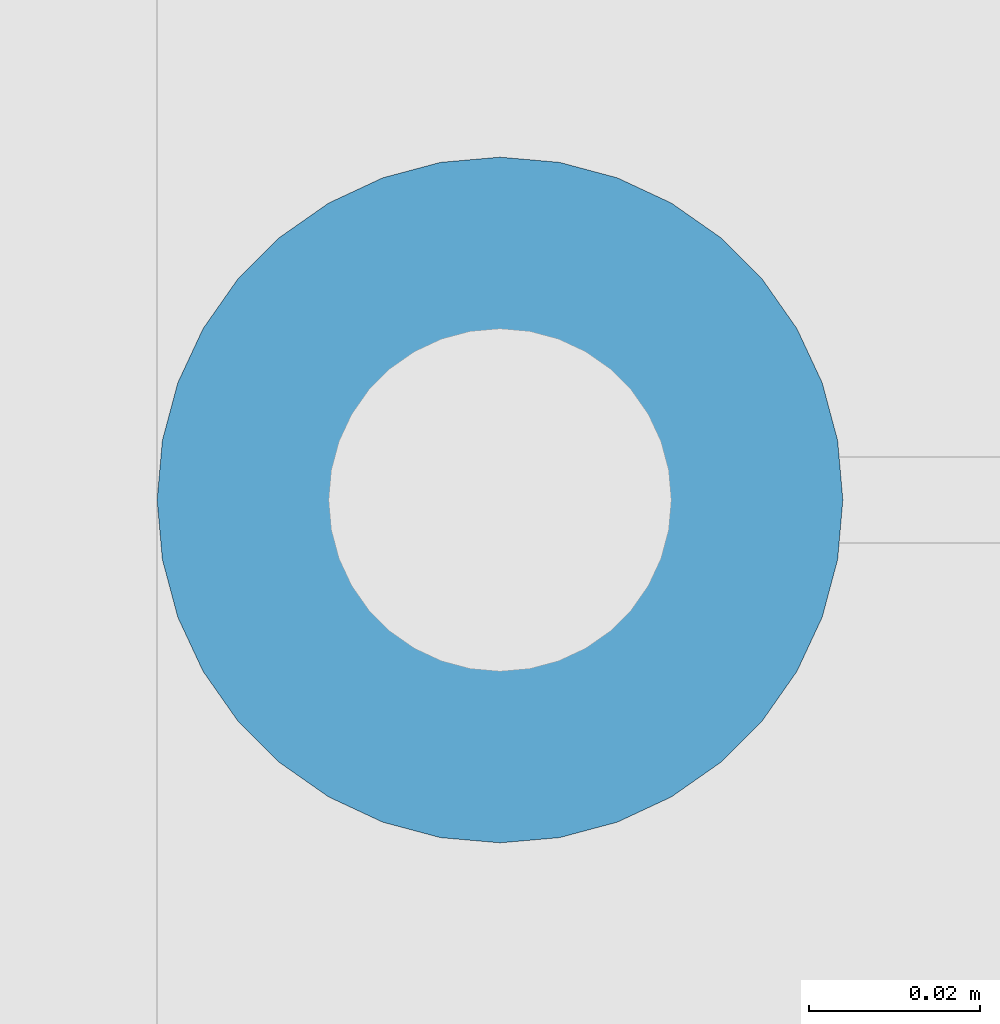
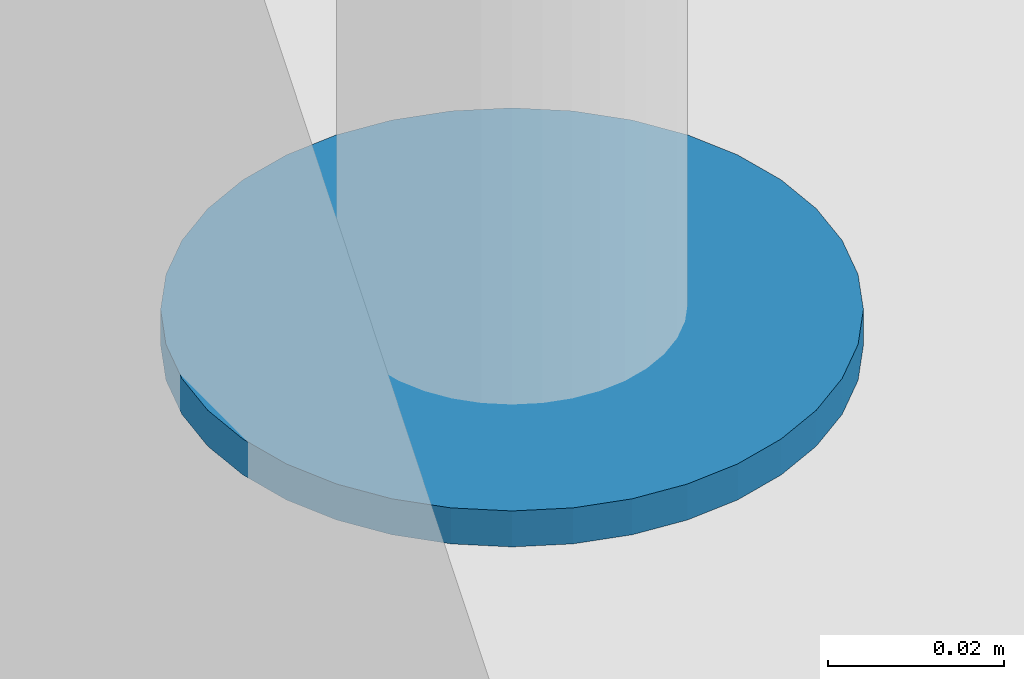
# One storey, part 119 of 237: 1 building element part, 1 element without a shape of its own.
"""IFC2X3 building model written with IfcOpenShell, lengths in millimetres."""

from ifc_helpers import new_model, entity, si_unit, converted_unit, derived_unit, money_unit, direction, frame, origin_with_axes, place, context, subcontext, project, spatial, faceted_brep, material, type_object, element, aggregate, save


model = new_model("IFC2X3")

# Units and contexts
model_context = context("Model", 3, precision=0.01, world=origin_with_axes(), true_north=direction((0.0, 1.0)))
body_context = subcontext(model_context, "Body", "Model", "MODEL_VIEW")
ifc_project = project(units=[si_unit("LENGTHUNIT", "METRE", prefix="MILLI"), si_unit("AREAUNIT", "SQUARE_METRE"), si_unit("VOLUMEUNIT", "CUBIC_METRE"), converted_unit("PLANEANGLEUNIT", "DEGREE", entity("IfcPlaneAngleMeasure", 0.0174532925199), si_unit("PLANEANGLEUNIT", "RADIAN"), dimensions=[0, 0, 0, 0, 0, 0, 0]), money_unit("USD"), converted_unit("TIMEUNIT", "Year", entity("IfcTimeMeasure", 31556926.0), si_unit("TIMEUNIT", "SECOND"), dimensions=[0, 0, 1, 0, 0, 0, 0]), si_unit("MASSUNIT", "GRAM", prefix="KILO"), si_unit("THERMODYNAMICTEMPERATUREUNIT", "DEGREE_CELSIUS"), si_unit("LUMINOUSINTENSITYUNIT", "LUMEN"), si_unit("ENERGYUNIT", "JOULE", prefix="MEGA"), derived_unit("THERMALCONDUCTANCEUNIT", [(si_unit("POWERUNIT", "WATT"), 1), (si_unit("LENGTHUNIT", "METRE"), -1), (si_unit("THERMODYNAMICTEMPERATUREUNIT", "KELVIN"), -1)]), derived_unit("SPECIFICHEATCAPACITYUNIT", [(si_unit("ENERGYUNIT", "JOULE"), 1), (si_unit("MASSUNIT", "GRAM", prefix="KILO"), -1), (si_unit("THERMODYNAMICTEMPERATUREUNIT", "KELVIN"), -1)]), derived_unit("MASSDENSITYUNIT", [(si_unit("MASSUNIT", "GRAM", prefix="KILO"), 1), (si_unit("VOLUMEUNIT", "CUBIC_METRE"), -1)])], contexts=[model_context])

# Site, building, storey
site_placement = place(None, origin_with_axes())
site = spatial("IfcSite", under=ifc_project, at=site_placement, Name="Local", CompositionType="ELEMENT")
building_placement = place(site_placement, origin_with_axes())
building = spatial("IfcBuilding", under=site, at=building_placement, Name="Construção", CompositionType="ELEMENT")
storey_placement = place(building_placement, origin_with_axes())
storey = spatial("IfcBuildingStorey", under=building, at=storey_placement, Name="Pavimento Térreo", CompositionType="ELEMENT", Elevation=0.0)

# Railing, building element part
railing_type = type_object("IfcRailingType", Name="Tipo de Guarda-Corpo", PredefinedType="NOTDEFINED")
railing_placement = place(storey_placement, frame((66962.5028921, 35505.5583652, -3484.00572187), z_axis=(0.0, 0.0, 1.0), x_axis=(1.0, 0.0, 0.0)))
railing = element("IfcRailing", 1, at=railing_placement, inside=storey, type_object=railing_type, Name="Guarda-Corpo - 001", PredefinedType="NOTDEFINED")
ifc_material = material(Name="Alumínio")
building_element_part_placement = place(railing_placement, origin_with_axes())
building_element_part = element("IfcBuildingElementPart", 2, at=building_element_part_placement, material=ifc_material, Name="Alumínio", context=body_context, shape_type="Brep", body=[
    faceted_brep([(40.0, -8036.52072839, 3.33689002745), (46.9459271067, -8035.91303851, 3.33689002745), (46.9459271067, -8035.91303851, 8.33689002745), (40.0, -8036.52072839, 8.33689002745), (33.0540728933, -8035.91303851, 3.33689002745), (26.319194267, -8034.10843323, 3.33689002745), (20.0, -8031.16174455, 3.33689002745), (14.2884956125, -8027.16250612, 3.33689002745), (9.35822227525, -8022.23223278, 3.33689002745), (5.35898384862, -8016.52072839, 3.33689002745), (2.41229516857, -8010.20153413, 3.33689002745), (0.607689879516, -8003.4666555, 3.33689002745), (0.0, -7996.52072839, 3.33689002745), (0.607689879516, -7989.57480129, 3.33689002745), (2.41229516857, -7982.83992266, 3.33689002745), (5.35898384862, -7976.52072839, 3.33689002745), (9.35822227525, -7970.80922401, 3.33689002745), (14.2884956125, -7965.87895067, 3.33689002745), (20.0, -7961.87971224, 3.33689002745), (26.319194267, -7958.93302356, 3.33689002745), (33.0540728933, -7957.12841827, 3.33689002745), (40.0, -7956.52072839, 3.33689002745), (46.9459271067, -7957.12841827, 3.33689002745), (53.680805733, -7958.93302356, 3.33689002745), (60.0, -7961.87971224, 3.33689002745), (65.7115043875, -7965.87895067, 3.33689002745), (70.6417777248, -7970.80922401, 3.33689002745), (74.6410161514, -7976.52072839, 3.33689002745), (77.5877048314, -7982.83992266, 3.33689002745), (79.3923101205, -7989.57480129, 3.33689002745), (80.0, -7996.52072839, 3.33689002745), (79.3923101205, -8003.4666555, 3.33689002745), (77.5877048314, -8010.20153413, 3.33689002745), (74.6410161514, -8016.52072839, 3.33689002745), (70.6417777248, -8022.23223278, 3.33689002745), (65.7115043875, -8027.16250612, 3.33689002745), (60.0, -8031.16174455, 3.33689002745), (53.680805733, -8034.10843323, 3.33689002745), (53.680805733, -8034.10843323, 8.33689002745), (60.0, -8031.16174455, 8.33689002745), (65.7115043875, -8027.16250612, 8.33689002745), (70.6417777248, -8022.23223278, 8.33689002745), (74.6410161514, -8016.52072839, 8.33689002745), (77.5877048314, -8010.20153413, 8.33689002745), (79.3923101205, -8003.4666555, 8.33689002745), (80.0, -7996.52072839, 8.33689002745), (79.3923101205, -7989.57480129, 8.33689002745), (77.5877048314, -7982.83992266, 8.33689002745), (74.6410161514, -7976.52072839, 8.33689002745), (70.6417777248, -7970.80922401, 8.33689002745), (65.7115043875, -7965.87895067, 8.33689002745), (60.0, -7961.87971224, 8.33689002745), (53.680805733, -7958.93302356, 8.33689002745), (46.9459271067, -7957.12841827, 8.33689002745), (40.0, -7956.52072839, 8.33689002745), (33.0540728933, -7957.12841827, 8.33689002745), (26.319194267, -7958.93302356, 8.33689002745), (20.0, -7961.87971224, 8.33689002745), (14.2884956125, -7965.87895067, 8.33689002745), (9.35822227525, -7970.80922401, 8.33689002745), (5.35898384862, -7976.52072839, 8.33689002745), (2.41229516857, -7982.83992266, 8.33689002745), (0.607689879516, -7989.57480129, 8.33689002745), (0.0, -7996.52072839, 8.33689002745), (0.607689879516, -8003.4666555, 8.33689002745), (2.41229516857, -8010.20153413, 8.33689002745), (5.35898384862, -8016.52072839, 8.33689002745), (9.35822227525, -8022.23223278, 8.33689002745), (14.2884956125, -8027.16250612, 8.33689002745), (20.0, -8031.16174455, 8.33689002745), (26.319194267, -8034.10843323, 8.33689002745), (33.0540728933, -8035.91303851, 8.33689002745)], [[[0, 1, 2, 3]], [[0, 4, 5, 6, 7, 8, 9, 10, 11, 12, 13, 14, 15, 16, 17, 18, 19, 20, 21, 22, 23, 24, 25, 26, 27, 28, 29, 30, 31, 32, 33, 34, 35, 36, 37, 1]], [[1, 37, 38, 2]], [[3, 2, 38, 39, 40, 41, 42, 43, 44, 45, 46, 47, 48, 49, 50, 51, 52, 53, 54, 55, 56, 57, 58, 59, 60, 61, 62, 63, 64, 65, 66, 67, 68, 69, 70, 71]], [[4, 0, 3, 71]], [[5, 4, 71, 70]], [[6, 5, 70, 69]], [[7, 6, 69, 68]], [[8, 7, 68, 67]], [[9, 8, 67, 66]], [[10, 9, 66, 65]], [[11, 10, 65, 64]], [[12, 11, 64, 63]], [[13, 12, 63, 62]], [[14, 13, 62, 61]], [[15, 14, 61, 60]], [[16, 15, 60, 59]], [[17, 16, 59, 58]], [[18, 17, 58, 57]], [[19, 18, 57, 56]], [[20, 19, 56, 55]], [[21, 20, 55, 54]], [[22, 21, 54, 53]], [[23, 22, 53, 52]], [[24, 23, 52, 51]], [[25, 24, 51, 50]], [[26, 25, 50, 49]], [[27, 26, 49, 48]], [[28, 27, 48, 47]], [[29, 28, 47, 46]], [[30, 29, 46, 45]], [[31, 30, 45, 44]], [[32, 31, 44, 43]], [[33, 32, 43, 42]], [[34, 33, 42, 41]], [[35, 34, 41, 40]], [[36, 35, 40, 39]], [[37, 36, 39, 38]]]),
])
aggregate(railing, [building_element_part])

save(model, "model.ifc")
